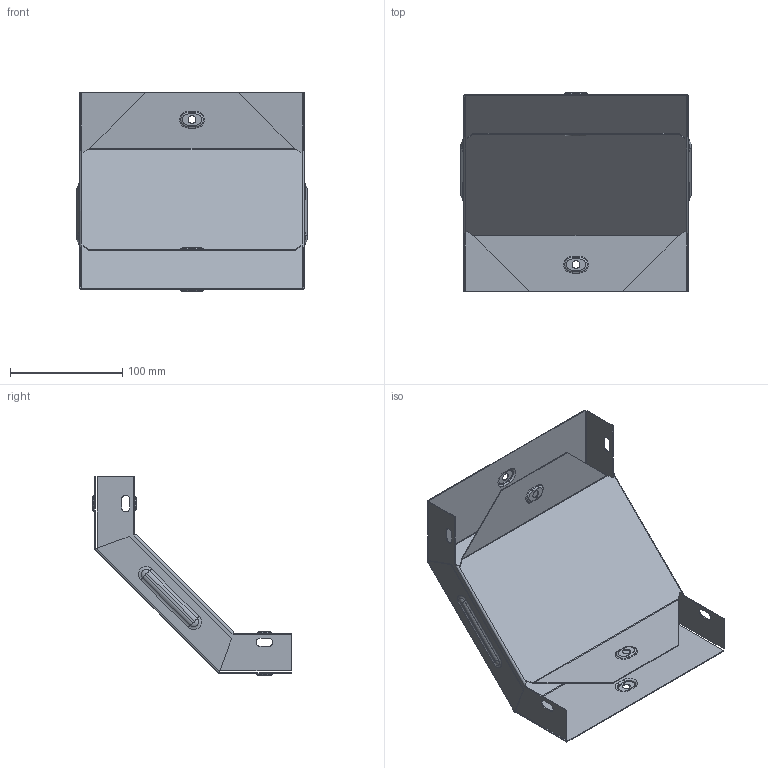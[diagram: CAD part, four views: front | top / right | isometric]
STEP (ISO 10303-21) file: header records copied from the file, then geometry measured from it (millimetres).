
FILE_DESCRIPTION (( 'STEP AP214' ), '1' );
FILE_NAME ('vo9035200_捘.STEP', '2019-06-10T08:52:15', ( '砐錪賧瘔蠈錪 Windows' ), ( '' ), 'SwSTEP 2.0', 'SolidWorks 2018', '' );
FILE_SCHEMA (( 'AUTOMOTIVE_DESIGN' ));
Length unit declared in the file: millimetre
Products named in the file (1): vo9035200_捘
Bounding box: 205.6 x 177.32 x 177.32 mm (x, y, z)
Volume: 96441.6 mm3; surface area: 243257.7 mm2
Topology: 2 solids, 2 shells, 262 faces, 606 edges, 364 vertices
Faces by surface type: cylinder 98, plane 92, torus 64, bspline 8
Entity records: 7621 total; most frequent: CARTESIAN_POINT 1481, DIRECTION 1360, ORIENTED_EDGE 1212, EDGE_CURVE 606, AXIS2_PLACEMENT_3D 531, VERTEX_POINT 364, LINE 298, VECTOR 298
